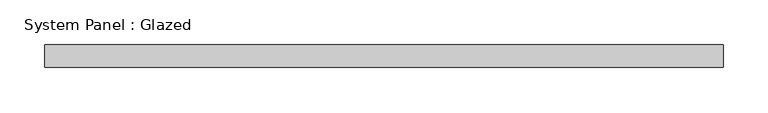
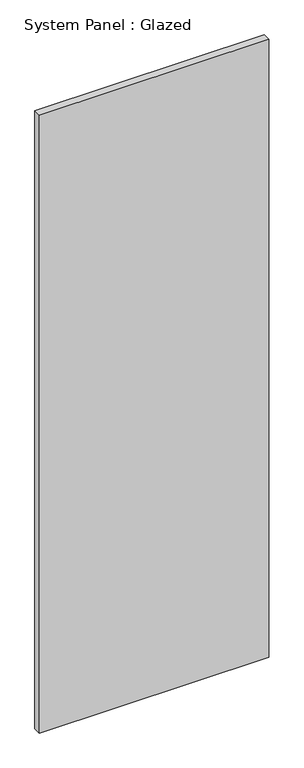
"""IFC4 building model written with IfcOpenShell, lengths in millimetres: plate geometry, System Panel : Glazed."""

from ifc_helpers import new_model, si_unit, origin, origin_with_axes, place, context, project, spatial, polyline, outline, extrude, source, transform, mapped, element, save


def system_panel_glazed_bc2b5b42(model_context):
    return source(origin(), model_context, "Body", "SweptSolid", [
        extrude(outline(polyline([(377.5, 24.5), (-377.5, 24.5), (-377.5, 49.5), (377.5, 49.5), (377.5, 24.5)])), origin_with_axes(), (0.0, 0.0, 1.0), 2150.0),
    ])


if __name__ == "__main__":
    model = new_model("IFC4")
    model_context = context("Model", 3, world=origin())
    ifc_project = project(units=[si_unit("LENGTHUNIT", "METRE", prefix="MILLI")], contexts=[model_context])
    site = spatial("IfcSite", under=ifc_project)
    building = spatial("IfcBuilding", under=site)
    placement = place(None, origin())
    system_panel_glazed_shape = system_panel_glazed_bc2b5b42(model_context)
    element("IfcPlate", 1, ObjectType="System Panel : Glazed", at=placement, inside=building, context=model_context, shape_type="MappedRepresentation", body=[
        mapped(system_panel_glazed_shape, transform((0.0, 0.0, 0.0), x_axis=(1.0, 0.0, 0.0), y_axis=(0.0, 1.0, 0.0), z_axis=(0.0, 0.0, 1.0))),
    ])
    save(model, "model.ifc")
